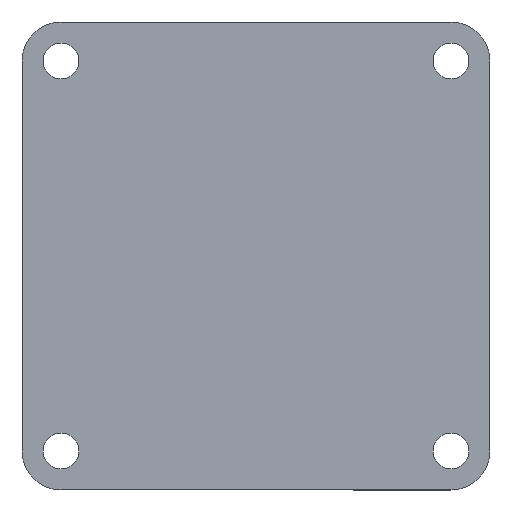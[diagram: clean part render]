
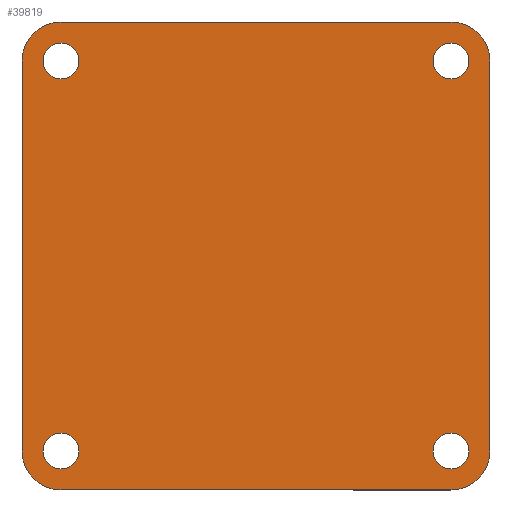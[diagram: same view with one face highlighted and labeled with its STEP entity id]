
A CAD part, front view. The second image highlights one B-rep face of the part: STEP entity #39819.
In plain terms, the highlighted planar face has unit normal (0, -1, 0) as drawn and (0, 0, -1) by its records, which use the part's own axes.
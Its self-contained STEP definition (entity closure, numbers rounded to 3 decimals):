
#959 = EDGE_LOOP ( 'NONE', ( #34242, #35580, #2670, #9653, #10081, #21200, #24522, #6436 ) ) ;
#1081 = CIRCLE ( 'NONE', #1082, 3.5 ) ;
#1082 = AXIS2_PLACEMENT_3D ( 'NONE', #36107, #39175, #42785 ) ;
#1374 = LINE ( 'NONE', #30020, #25914 ) ;
#1740 = EDGE_CURVE ( 'NONE', #28912, #28912, #22637, .T. ) ;
#2670 = ORIENTED_EDGE ( 'NONE', *, *, #30294, .F. ) ;
#3362 = EDGE_CURVE ( 'NONE', #23328, #17065, #1081, .T. ) ;
#3471 = DIRECTION ( 'NONE',  ( 1., 0., 0. ) ) ;
#4235 = FACE_BOUND ( 'NONE', #38999, .T. ) ;
#4401 = CIRCLE ( 'NONE', #5450, 3.5 ) ;
#5206 = ORIENTED_EDGE ( 'NONE', *, *, #5918, .T. ) ;
#5257 = LINE ( 'NONE', #41931, #39675 ) ;
#5450 = AXIS2_PLACEMENT_3D ( 'NONE', #26515, #39203, #22876 ) ;
#5519 = DIRECTION ( 'NONE',  ( -1., 0., 0. ) ) ;
#5894 = VERTEX_POINT ( 'NONE', #23019 ) ;
#5918 = EDGE_CURVE ( 'NONE', #31467, #31467, #18990, .T. ) ;
#6221 = EDGE_CURVE ( 'NONE', #18699, #8826, #4401, .T. ) ;
#6281 = EDGE_CURVE ( 'NONE', #17065, #18699, #26846, .T. ) ;
#6436 = ORIENTED_EDGE ( 'NONE', *, *, #25585, .F. ) ;
#6748 = DIRECTION ( 'NONE',  ( 0., 0., 1. ) ) ;
#7311 = DIRECTION ( 'NONE',  ( 1., 0., 0. ) ) ;
#7333 = PLANE ( 'NONE',  #12546 ) ;
#7461 = AXIS2_PLACEMENT_3D ( 'NONE', #24220, #27722, #27867 ) ;
#7874 = DIRECTION ( 'NONE',  ( 0., 0., 1. ) ) ;
#7905 = EDGE_CURVE ( 'NONE', #39778, #20913, #33591, .T. ) ;
#8826 = VERTEX_POINT ( 'NONE', #41241 ) ;
#9282 = CARTESIAN_POINT ( 'NONE',  ( 42., 3.5, 0. ) ) ;
#9653 = ORIENTED_EDGE ( 'NONE', *, *, #41583, .F. ) ;
#9855 = CARTESIAN_POINT ( 'NONE',  ( 5.1, 3.5, 0. ) ) ;
#10008 = DIRECTION ( 'NONE',  ( 0., 1., 0. ) ) ;
#10081 = ORIENTED_EDGE ( 'NONE', *, *, #6221, .F. ) ;
#10116 = DIRECTION ( 'NONE',  ( 0., 0., 1. ) ) ;
#10874 = EDGE_CURVE ( 'NONE', #34051, #34051, #29346, .T. ) ;
#10875 = EDGE_LOOP ( 'NONE', ( #29794 ) ) ;
#10965 = AXIS2_PLACEMENT_3D ( 'NONE', #20351, #6748, #27048 ) ;
#12314 = CIRCLE ( 'NONE', #18017, 1.6 ) ;
#12546 = AXIS2_PLACEMENT_3D ( 'NONE', #30392, #27345, #20365 ) ;
#12872 = CARTESIAN_POINT ( 'NONE',  ( 3.5, 42., 0. ) ) ;
#13100 = FACE_BOUND ( 'NONE', #41209, .T. ) ;
#15604 = DIRECTION ( 'NONE',  ( 1., 0., 0. ) ) ;
#16182 = CARTESIAN_POINT ( 'NONE',  ( 3.5, 38.5, 0. ) ) ;
#16322 = AXIS2_PLACEMENT_3D ( 'NONE', #17548, #7874, #7311 ) ;
#17065 = VERTEX_POINT ( 'NONE', #32268 ) ;
#17548 = CARTESIAN_POINT ( 'NONE',  ( 38.5, 38.5, 0. ) ) ;
#17767 = CARTESIAN_POINT ( 'NONE',  ( 42., 38.5, 0. ) ) ;
#17899 = CARTESIAN_POINT ( 'NONE',  ( 38.5, 0., 0. ) ) ;
#18017 = AXIS2_PLACEMENT_3D ( 'NONE', #16182, #42401, #15604 ) ;
#18130 = CARTESIAN_POINT ( 'NONE',  ( 0., 38.5, 0. ) ) ;
#18699 = VERTEX_POINT ( 'NONE', #17767 ) ;
#18990 = CIRCLE ( 'NONE', #10965, 1.6 ) ;
#19513 = CARTESIAN_POINT ( 'NONE',  ( 40.1, 38.5, 0. ) ) ;
#20206 = ORIENTED_EDGE ( 'NONE', *, *, #1740, .T. ) ;
#20351 = CARTESIAN_POINT ( 'NONE',  ( 3.5, 3.5, 0. ) ) ;
#20365 = DIRECTION ( 'NONE',  ( 1., 0., 0. ) ) ;
#20641 = DIRECTION ( 'NONE',  ( 1., 0., 0. ) ) ;
#20890 = CARTESIAN_POINT ( 'NONE',  ( 0., 3.5, 0. ) ) ;
#20913 = VERTEX_POINT ( 'NONE', #20890 ) ;
#21200 = ORIENTED_EDGE ( 'NONE', *, *, #6281, .F. ) ;
#22023 = CARTESIAN_POINT ( 'NONE',  ( 3.5, 0., 0. ) ) ;
#22637 = CIRCLE ( 'NONE', #33106, 1.6 ) ;
#22876 = DIRECTION ( 'NONE',  ( 1., 0., 0. ) ) ;
#22890 = EDGE_CURVE ( 'NONE', #5894, #5894, #12314, .T. ) ;
#23019 = CARTESIAN_POINT ( 'NONE',  ( 5.1, 38.5, 0. ) ) ;
#23328 = VERTEX_POINT ( 'NONE', #17899 ) ;
#24220 = CARTESIAN_POINT ( 'NONE',  ( 3.5, 38.5, 0. ) ) ;
#24522 = ORIENTED_EDGE ( 'NONE', *, *, #3362, .F. ) ;
#24607 = FACE_BOUND ( 'NONE', #29995, .T. ) ;
#25585 = EDGE_CURVE ( 'NONE', #34591, #23328, #1374, .T. ) ;
#25648 = FACE_BOUND ( 'NONE', #10875, .T. ) ;
#25914 = VECTOR ( 'NONE', #3471, 1000. ) ;
#25993 = DIRECTION ( 'NONE',  ( 0., 0., 1. ) ) ;
#26515 = CARTESIAN_POINT ( 'NONE',  ( 38.5, 38.5, 0. ) ) ;
#26806 = VECTOR ( 'NONE', #40969, 1000. ) ;
#26846 = LINE ( 'NONE', #9282, #37785 ) ;
#27048 = DIRECTION ( 'NONE',  ( 1., 0., 0. ) ) ;
#27345 = DIRECTION ( 'NONE',  ( 0., 0., 1. ) ) ;
#27722 = DIRECTION ( 'NONE',  ( 0., 0., 1. ) ) ;
#27867 = DIRECTION ( 'NONE',  ( -1., 0., 0. ) ) ;
#28100 = CIRCLE ( 'NONE', #43035, 3.5 ) ;
#28912 = VERTEX_POINT ( 'NONE', #43239 ) ;
#29305 = VERTEX_POINT ( 'NONE', #12872 ) ;
#29346 = CIRCLE ( 'NONE', #16322, 1.6 ) ;
#29794 = ORIENTED_EDGE ( 'NONE', *, *, #10874, .T. ) ;
#29995 = EDGE_LOOP ( 'NONE', ( #20206 ) ) ;
#30020 = CARTESIAN_POINT ( 'NONE',  ( 3.5, 0., 0. ) ) ;
#30294 = EDGE_CURVE ( 'NONE', #29305, #39778, #42910, .T. ) ;
#30392 = CARTESIAN_POINT ( 'NONE',  ( 3.5, 3.5, 0. ) ) ;
#30395 = CARTESIAN_POINT ( 'NONE',  ( 38.5, 3.5, 0. ) ) ;
#31467 = VERTEX_POINT ( 'NONE', #9855 ) ;
#32268 = CARTESIAN_POINT ( 'NONE',  ( 42., 3.5, 0. ) ) ;
#33106 = AXIS2_PLACEMENT_3D ( 'NONE', #30395, #10116, #20641 ) ;
#33591 = LINE ( 'NONE', #18130, #26806 ) ;
#34051 = VERTEX_POINT ( 'NONE', #19513 ) ;
#34242 = ORIENTED_EDGE ( 'NONE', *, *, #36700, .F. ) ;
#34591 = VERTEX_POINT ( 'NONE', #22023 ) ;
#35007 = FACE_OUTER_BOUND ( 'NONE', #959, .T. ) ;
#35580 = ORIENTED_EDGE ( 'NONE', *, *, #7905, .F. ) ;
#36054 = DIRECTION ( 'NONE',  ( 1., 0., 0. ) ) ;
#36107 = CARTESIAN_POINT ( 'NONE',  ( 38.5, 3.5, 0. ) ) ;
#36700 = EDGE_CURVE ( 'NONE', #20913, #34591, #28100, .T. ) ;
#37252 = CARTESIAN_POINT ( 'NONE',  ( 0., 38.5, 0. ) ) ;
#37537 = ORIENTED_EDGE ( 'NONE', *, *, #22890, .T. ) ;
#37785 = VECTOR ( 'NONE', #10008, 1000. ) ;
#38999 = EDGE_LOOP ( 'NONE', ( #5206 ) ) ;
#39175 = DIRECTION ( 'NONE',  ( 0., 0., 1. ) ) ;
#39203 = DIRECTION ( 'NONE',  ( 0., 0., 1. ) ) ;
#39675 = VECTOR ( 'NONE', #5519, 1000. ) ;
#39778 = VERTEX_POINT ( 'NONE', #37252 ) ;
#39819 = ADVANCED_FACE ( 'NONE', ( #13100, #4235, #35007, #25648, #24607 ), #7333, .F. ) ;
#40969 = DIRECTION ( 'NONE',  ( 0., -1., 0. ) ) ;
#41209 = EDGE_LOOP ( 'NONE', ( #37537 ) ) ;
#41241 = CARTESIAN_POINT ( 'NONE',  ( 38.5, 42., 0. ) ) ;
#41583 = EDGE_CURVE ( 'NONE', #8826, #29305, #5257, .T. ) ;
#41931 = CARTESIAN_POINT ( 'NONE',  ( 38.5, 42., 0. ) ) ;
#42401 = DIRECTION ( 'NONE',  ( 0., 0., 1. ) ) ;
#42587 = CARTESIAN_POINT ( 'NONE',  ( 3.5, 3.5, 0. ) ) ;
#42785 = DIRECTION ( 'NONE',  ( 1., 0., 0. ) ) ;
#42910 = CIRCLE ( 'NONE', #7461, 3.5 ) ;
#43035 = AXIS2_PLACEMENT_3D ( 'NONE', #42587, #25993, #36054 ) ;
#43239 = CARTESIAN_POINT ( 'NONE',  ( 40.1, 3.5, 0. ) ) ;
